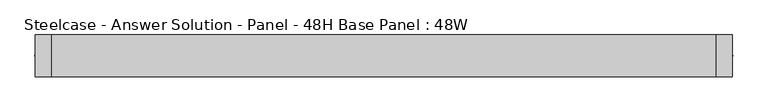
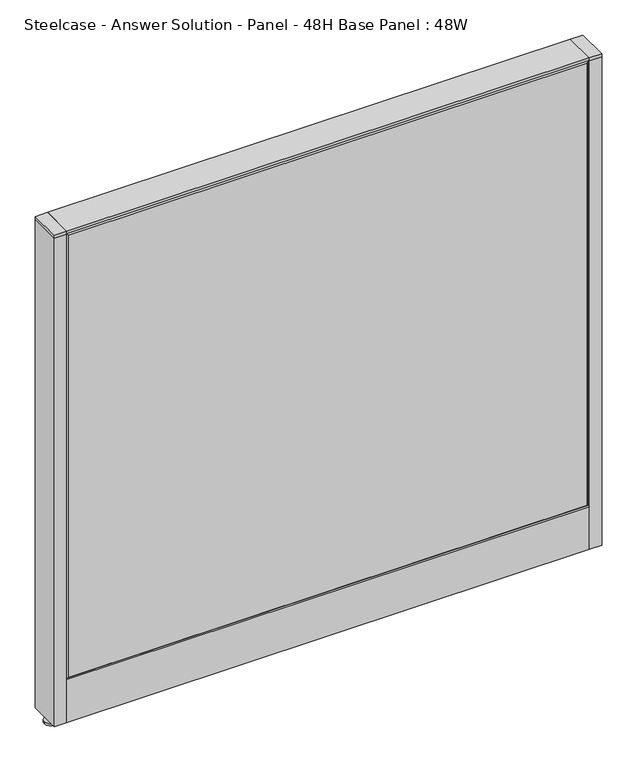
"""IFC4 building model written with IfcOpenShell, lengths in millimetres: furniture geometry, Steelcase - Answer Solution - Panel - 48H Base Panel : 48W."""

from ifc_helpers import new_model, si_unit, point, frame, frame_2d, origin, place, context, project, spatial, polyline, circle_curve, trimmed, segment, composite_curve, outline, extrude, faceted_brep, source, transform, mapped, element, save


def steelcase_answer_solution_panel_48h_base_panel_48w_09876dcd(model_context):
    return source(origin(), model_context, "Body", "SolidModel", [
        extrude(outline(composite_curve([segment(trimmed(circle_curve(frame_2d((623.824, 0.0320214)), 5.08), [point((628.904, 0.0320214))], [point((618.744, 0.0320214))], False, "CARTESIAN"), True, "CONTINUOUS"), segment(trimmed(circle_curve(frame_2d((623.824, 0.0320214)), 5.08), [point((618.744, 0.0320214))], [point((628.904, 0.0320214))], False, "CARTESIAN"), True, "CONTINUOUS")], self_intersect=False)), frame((0.0, 0.0, 5.0799671), z_axis=(0.0, 0.0, 1.0), x_axis=(1.0, 0.0, 0.0)), (0.0, 0.0, 1.0), 10.414),
        extrude(outline(composite_curve([segment(trimmed(circle_curve(frame_2d((623.824, 0.0320214)), 15.24), [point((639.064, 0.0320214))], [point((608.584, 0.0320214))], False, "CARTESIAN"), True, "CONTINUOUS"), segment(trimmed(circle_curve(frame_2d((623.824, 0.0320214)), 15.24), [point((608.584, 0.0320214))], [point((639.064, 0.0320214))], False, "CARTESIAN"), True, "CONTINUOUS")], self_intersect=False)), frame((0.0, 0.0, -3.29e-05), z_axis=(0.0, 0.0, 1.0), x_axis=(1.0, 0.0, 0.0)), (0.0, 0.0, 1.0), 5.08),
        extrude(outline(polyline([(638.175, 38.1320408), (638.175, -38.0679592), (609.6, -38.0679592), (609.6, 38.1320408), (638.175, 38.1320408)])), frame((0.0, 0.0, 1218.2348), z_axis=(0.0, 0.0, 1.0), x_axis=(1.0, 0.0, 0.0)), (0.0, 0.0, 1.0), 7.3151671),
        extrude(outline(polyline([(638.175, 38.1320408), (638.175, -38.0679592), (609.6, -38.0679592), (609.6, 38.1320408), (638.175, 38.1320408)])), frame((0.0, 0.0, 15.4939671), z_axis=(0.0, 0.0, 1.0), x_axis=(1.0, 0.0, 0.0)), (0.0, 0.0, 1.0), 1202.7408329),
        extrude(outline(composite_curve([segment(trimmed(circle_curve(frame_2d((-623.824, 0.0320214)), 5.08), [point((-628.904, 0.0320214))], [point((-618.744, 0.0320214))], False, "CARTESIAN"), True, "CONTINUOUS"), segment(trimmed(circle_curve(frame_2d((-623.824, 0.0320214)), 5.08), [point((-618.744, 0.0320214))], [point((-628.904, 0.0320214))], False, "CARTESIAN"), True, "CONTINUOUS")], self_intersect=False)), frame((0.0, 0.0, 5.0799671), z_axis=(0.0, 0.0, 1.0), x_axis=(1.0, 0.0, 0.0)), (0.0, 0.0, 1.0), 10.414),
        extrude(outline(composite_curve([segment(trimmed(circle_curve(frame_2d((-623.824, 0.0320214)), 15.24), [point((-639.064, 0.0320214))], [point((-608.584, 0.0320214))], False, "CARTESIAN"), True, "CONTINUOUS"), segment(trimmed(circle_curve(frame_2d((-623.824, 0.0320214)), 15.24), [point((-608.584, 0.0320214))], [point((-639.064, 0.0320214))], False, "CARTESIAN"), True, "CONTINUOUS")], self_intersect=False)), frame((0.0, 0.0, -3.29e-05), z_axis=(0.0, 0.0, 1.0), x_axis=(1.0, 0.0, 0.0)), (0.0, 0.0, 1.0), 5.08),
        extrude(outline(polyline([(-638.175, 38.1320408), (-609.6, 38.1320408), (-609.6, -38.0679592), (-638.175, -38.0679592), (-638.175, 38.1320408)])), frame((0.0, 0.0, 1218.2348), z_axis=(0.0, 0.0, 1.0), x_axis=(1.0, 0.0, 0.0)), (0.0, 0.0, 1.0), 7.3151671),
        extrude(outline(polyline([(-638.175, 38.1320408), (-609.6, 38.1320408), (-609.6, -38.0679592), (-638.175, -38.0679592), (-638.175, 38.1320408)])), frame((0.0, 0.0, 15.4939671), z_axis=(0.0, 0.0, 1.0), x_axis=(1.0, 0.0, 0.0)), (0.0, 0.0, 1.0), 1202.7408329),
        faceted_brep([(-604.774, 38.1635011, 1214.374), (604.774, 38.1635011, 1214.374), (604.774, 38.1635011, 125.476), (-604.774, 38.1635011, 125.476), (-609.6, 33.3375011, 1219.2), (-609.6, 33.3375011, 120.65), (609.6, 33.3375011, 120.65), (609.6, 33.3375011, 1219.2)], [[[0, 1, 2, 3]], [[4, 5, 6, 7]], [[4, 7, 1, 0]], [[7, 6, 2, 1]], [[6, 5, 3, 2]], [[5, 4, 0, 3]]]),
        faceted_brep([(604.774, -38.1635011, 1214.374), (-604.774, -38.1635011, 1214.374), (-604.774, -38.1635011, 125.476), (604.774, -38.1635011, 125.476), (609.6, -33.3375011, 1219.2), (609.6, -33.3375011, 120.65), (-609.6, -33.3375011, 120.65), (-609.6, -33.3375011, 1219.2)], [[[0, 1, 2, 3]], [[4, 5, 6, 7]], [[4, 7, 1, 0]], [[7, 6, 2, 1]], [[6, 5, 3, 2]], [[5, 4, 0, 3]]]),
        extrude(outline(polyline([(609.6, 38.1000194), (609.6, -38.1000194), (-609.6, -38.1000194), (-609.6, 38.1000194), (609.6, 38.1000194)])), frame((0.0, 0.0, 1219.2), z_axis=(0.0, 0.0, 1.0), x_axis=(1.0, 0.0, 0.0)), (0.0, 0.0, 1.0), 6.35),
        extrude(outline(polyline([(25.4000011, 119.8575157), (25.4000011, 120.65), (38.1000194, 120.65), (38.1000194, 15.494), (37.3075215, 15.494), (37.3075215, 119.8575157), (25.4000011, 119.8575157)])), frame((-609.6, 0.0, 0.0), z_axis=(1.0, 0.0, 0.0), x_axis=(0.0, 1.0, 0.0)), (0.0, 0.0, 1.0), 1219.2),
        extrude(outline(polyline([(-25.4000011, 119.8575157), (-37.3075215, 119.8575157), (-37.3075215, 15.494), (-38.1000194, 15.494), (-38.1000194, 120.65), (-25.4000011, 120.65), (-25.4000011, 119.8575157)])), frame((-609.6, 0.0, 0.0), z_axis=(1.0, 0.0, 0.0), x_axis=(0.0, 1.0, 0.0)), (0.0, 0.0, 1.0), 1219.2),
    ])


if __name__ == "__main__":
    model = new_model("IFC4")
    model_context = context("Model", 3, world=origin())
    ifc_project = project(units=[si_unit("LENGTHUNIT", "METRE", prefix="MILLI")], contexts=[model_context])
    site = spatial("IfcSite", under=ifc_project)
    building = spatial("IfcBuilding", under=site)
    placement = place(None, origin())
    steelcase_answer_solution_panel_48h_base_panel_48w_shape = steelcase_answer_solution_panel_48h_base_panel_48w_09876dcd(model_context)
    element("IfcFurniture", 1, ObjectType="Steelcase - Answer Solution - Panel - 48H Base Panel : 48W", at=placement, inside=building, context=model_context, shape_type="MappedRepresentation", body=[
        mapped(steelcase_answer_solution_panel_48h_base_panel_48w_shape, transform((0.0, 0.0, 0.0), x_axis=(1.0, 0.0, 0.0), y_axis=(0.0, 1.0, 0.0), z_axis=(0.0, 0.0, 1.0))),
    ])
    save(model, "model.ifc")
